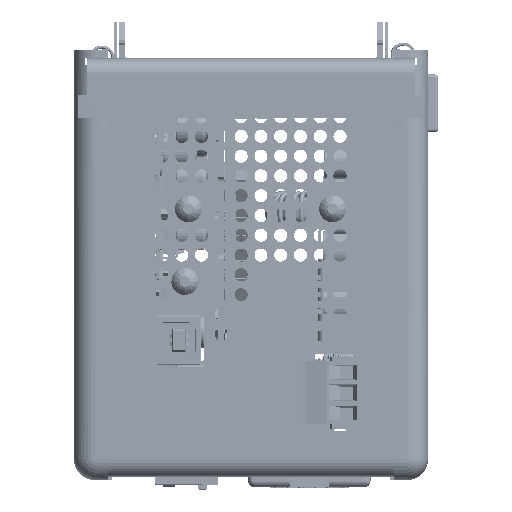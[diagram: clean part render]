
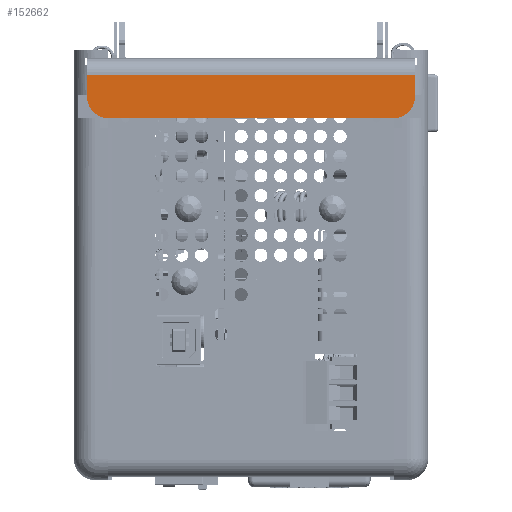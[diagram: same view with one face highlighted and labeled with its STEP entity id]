
A CAD part, left-side view. The second image highlights one B-rep face of the part: STEP entity #152662.
In plain terms, the highlighted planar face has unit normal (-1, 0, 0) as drawn and (0, 0, 1) by its records, which use the part's own axes.
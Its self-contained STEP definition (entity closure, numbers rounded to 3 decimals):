
#152662 = ADVANCED_FACE( '', ( #311188 ), #311189, .F. );
#311188 = FACE_OUTER_BOUND( '', #506843, .T. );
#311189 = PLANE( '', #506844 );
#506843 = EDGE_LOOP( '', ( #821190, #821191, #821192, #821193, #821194, #821195 ) );
#506844 = AXIS2_PLACEMENT_3D( '', #821196, #821197, #821198 );
#821190 = ORIENTED_EDGE( '', *, *, #981151, .T. );
#821191 = ORIENTED_EDGE( '', *, *, #980892, .T. );
#821192 = ORIENTED_EDGE( '', *, *, #984343, .F. );
#821193 = ORIENTED_EDGE( '', *, *, #936512, .T. );
#821194 = ORIENTED_EDGE( '', *, *, #1009606, .F. );
#821195 = ORIENTED_EDGE( '', *, *, #955122, .T. );
#821196 = CARTESIAN_POINT( '', ( 0., 39.434, 58.747 ) );
#821197 = DIRECTION( '', ( 0., 0., -1. ) );
#821198 = DIRECTION( '', ( -1., 0., 0. ) );
#936512 = EDGE_CURVE( '', #1066206, #1066207, #1066208, .F. );
#955122 = EDGE_CURVE( '', #1095637, #1095635, #1095638, .T. );
#980892 = EDGE_CURVE( '', #1132685, #1132686, #1132687, .F. );
#981151 = EDGE_CURVE( '', #1095635, #1132685, #1133026, .T. );
#984343 = EDGE_CURVE( '', #1066206, #1132686, #1137254, .T. );
#1009606 = EDGE_CURVE( '', #1095637, #1066207, #1167994, .T. );
#1066206 = VERTEX_POINT( '', #1244036 );
#1066207 = VERTEX_POINT( '', #1244037 );
#1066208 = CIRCLE( '', #1244038, 5.08 );
#1095635 = VERTEX_POINT( '', #1287241 );
#1095637 = VERTEX_POINT( '', #1287243 );
#1095638 = LINE( '', #1287244, #1287245 );
#1132685 = VERTEX_POINT( '', #1342958 );
#1132686 = VERTEX_POINT( '', #1342959 );
#1132687 = CIRCLE( '', #1342960, 5.08 );
#1133026 = LINE( '', #1343463, #1343464 );
#1137254 = LINE( '', #1349888, #1349889 );
#1167994 = LINE( '', #1394809, #1394810 );
#1244036 = CARTESIAN_POINT( '', ( 14.415, 34.354, 58.747 ) );
#1244037 = CARTESIAN_POINT( '', ( 9.335, 39.434, 58.747 ) );
#1244038 = AXIS2_PLACEMENT_3D( '', #1440222, #1440223, #1440224 );
#1287241 = CARTESIAN_POINT( '', ( 4.064, -39.434, 58.747 ) );
#1287243 = CARTESIAN_POINT( '', ( 4.064, 39.434, 58.747 ) );
#1287244 = CARTESIAN_POINT( '', ( 4.064, 39.434, 58.747 ) );
#1287245 = VECTOR( '', #1459106, 1000. );
#1342958 = CARTESIAN_POINT( '', ( 9.335, -39.434, 58.747 ) );
#1342959 = CARTESIAN_POINT( '', ( 14.415, -34.354, 58.747 ) );
#1342960 = AXIS2_PLACEMENT_3D( '', #1483209, #1483210, #1483211 );
#1343463 = CARTESIAN_POINT( '', ( 0., -39.434, 58.747 ) );
#1343464 = VECTOR( '', #1483445, 1000. );
#1349888 = CARTESIAN_POINT( '', ( 14.415, 39.434, 58.747 ) );
#1349889 = VECTOR( '', #1486367, 1000. );
#1394809 = CARTESIAN_POINT( '', ( 0., 39.434, 58.747 ) );
#1394810 = VECTOR( '', #1506991, 1000. );
#1440222 = CARTESIAN_POINT( '', ( 9.335, 34.354, 58.747 ) );
#1440223 = DIRECTION( '', ( 0., 0., -1. ) );
#1440224 = DIRECTION( '', ( -1., 0., 0. ) );
#1459106 = DIRECTION( '', ( 0., -1., 0. ) );
#1483209 = CARTESIAN_POINT( '', ( 9.335, -34.354, 58.747 ) );
#1483210 = DIRECTION( '', ( 0., 0., -1. ) );
#1483211 = DIRECTION( '', ( -1., 0., 0. ) );
#1483445 = DIRECTION( '', ( 1., 0., 0. ) );
#1486367 = DIRECTION( '', ( 0., -1., 0. ) );
#1506991 = DIRECTION( '', ( 1., 0., 0. ) );
